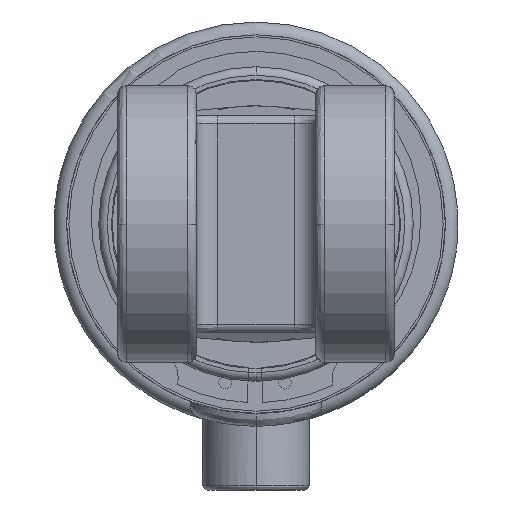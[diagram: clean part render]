
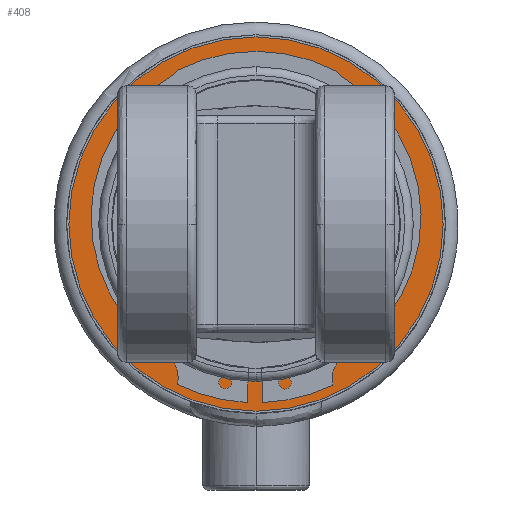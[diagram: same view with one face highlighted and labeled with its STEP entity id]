
A CAD part, left-side view. The second image highlights one B-rep face of the part: STEP entity #408.
In plain terms, the highlighted planar face has unit normal (-1, 0, 0).
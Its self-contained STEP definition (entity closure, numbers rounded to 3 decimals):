
#17 = DIRECTION ( 'NONE',  ( 0., 0., 1. ) ) ;
#408 = ADVANCED_FACE ( 'NONE', ( #5371, #9953 ), #2988, .T. ) ;
#532 = AXIS2_PLACEMENT_3D ( 'NONE', #8464, #3907, #10292 ) ;
#602 = CARTESIAN_POINT ( 'NONE',  ( -468.005, 0., 0. ) ) ;
#1105 = EDGE_CURVE ( 'NONE', #10110, #8429, #1385, .T. ) ;
#1385 = CIRCLE ( 'NONE', #5194, 36.95 ) ;
#1521 = DIRECTION ( 'NONE',  ( 0., 0., 1. ) ) ;
#1527 = ORIENTED_EDGE ( 'NONE', *, *, #8856, .T. ) ;
#1725 = EDGE_CURVE ( 'NONE', #4867, #10590, #11085, .T. ) ;
#1796 = AXIS2_PLACEMENT_3D ( 'NONE', #10962, #5482, #17 ) ;
#1827 = EDGE_LOOP ( 'NONE', ( #8519, #1527 ) ) ;
#2090 = ORIENTED_EDGE ( 'NONE', *, *, #1105, .F. ) ;
#2604 = CIRCLE ( 'NONE', #1796, 43.95 ) ;
#2732 = CARTESIAN_POINT ( 'NONE',  ( -468.005, 0., 0. ) ) ;
#2988 = PLANE ( 'NONE',  #532 ) ;
#3533 = CARTESIAN_POINT ( 'NONE',  ( -468.005, 0., -43.95 ) ) ;
#3649 = DIRECTION ( 'NONE',  ( 0., 0., 1. ) ) ;
#3721 = CIRCLE ( 'NONE', #5791, 36.95 ) ;
#3823 = CARTESIAN_POINT ( 'NONE',  ( -468.005, 0., -36.95 ) ) ;
#3907 = DIRECTION ( 'NONE',  ( -1., 0., 0. ) ) ;
#4295 = EDGE_LOOP ( 'NONE', ( #9089, #2090 ) ) ;
#4727 = CARTESIAN_POINT ( 'NONE',  ( -468.005, 0., 36.95 ) ) ;
#4867 = VERTEX_POINT ( 'NONE', #5600 ) ;
#5053 = CARTESIAN_POINT ( 'NONE',  ( -468.005, 0., 0. ) ) ;
#5194 = AXIS2_PLACEMENT_3D ( 'NONE', #602, #7005, #1521 ) ;
#5371 = FACE_OUTER_BOUND ( 'NONE', #1827, .T. ) ;
#5482 = DIRECTION ( 'NONE',  ( -1., 0., 0. ) ) ;
#5600 = CARTESIAN_POINT ( 'NONE',  ( -468.005, 0., 43.95 ) ) ;
#5791 = AXIS2_PLACEMENT_3D ( 'NONE', #2732, #9135, #3649 ) ;
#5968 = DIRECTION ( 'NONE',  ( 0., 0., 1. ) ) ;
#7005 = DIRECTION ( 'NONE',  ( -1., 0., 0. ) ) ;
#7815 = AXIS2_PLACEMENT_3D ( 'NONE', #5053, #11447, #5968 ) ;
#8429 = VERTEX_POINT ( 'NONE', #4727 ) ;
#8464 = CARTESIAN_POINT ( 'NONE',  ( -468.005, 0., -43.95 ) ) ;
#8519 = ORIENTED_EDGE ( 'NONE', *, *, #1725, .T. ) ;
#8856 = EDGE_CURVE ( 'NONE', #10590, #4867, #2604, .T. ) ;
#9089 = ORIENTED_EDGE ( 'NONE', *, *, #10626, .F. ) ;
#9135 = DIRECTION ( 'NONE',  ( -1., 0., 0. ) ) ;
#9953 = FACE_BOUND ( 'NONE', #4295, .T. ) ;
#10110 = VERTEX_POINT ( 'NONE', #3823 ) ;
#10292 = DIRECTION ( 'NONE',  ( 0., 0., 1. ) ) ;
#10590 = VERTEX_POINT ( 'NONE', #3533 ) ;
#10626 = EDGE_CURVE ( 'NONE', #8429, #10110, #3721, .T. ) ;
#10962 = CARTESIAN_POINT ( 'NONE',  ( -468.005, 0., 0. ) ) ;
#11085 = CIRCLE ( 'NONE', #7815, 43.95 ) ;
#11447 = DIRECTION ( 'NONE',  ( -1., 0., 0. ) ) ;
